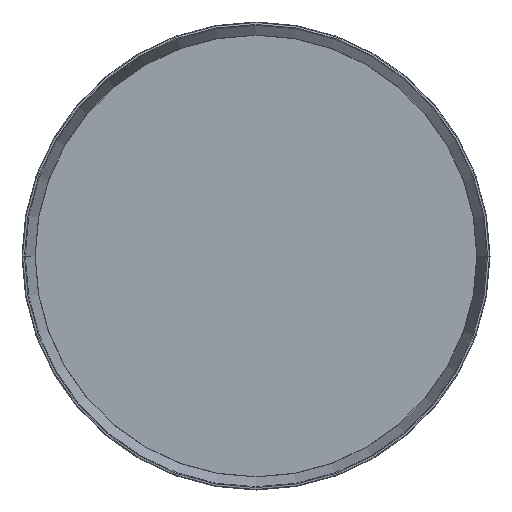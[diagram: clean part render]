
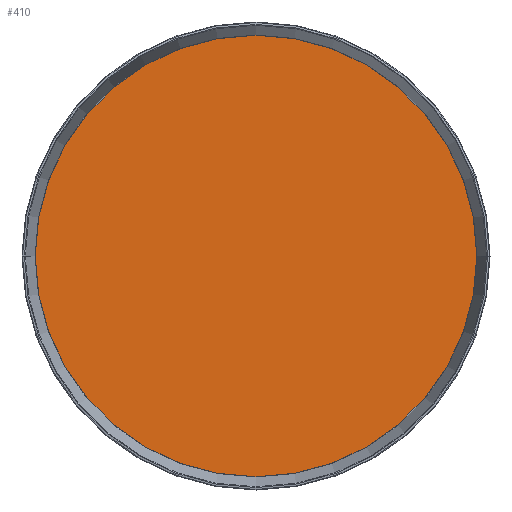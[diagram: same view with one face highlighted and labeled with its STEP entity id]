
A CAD part, front view. The second image highlights one B-rep face of the part: STEP entity #410.
In plain terms, the highlighted planar face has unit normal (0, -1, 0).
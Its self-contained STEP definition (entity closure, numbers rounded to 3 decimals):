
#6=CARTESIAN_POINT('',(0.,10.5,0.));
#7=DIRECTION('',(0.,-1.,0.));
#8=DIRECTION('',(-1.,0.,0.));
#9=AXIS2_PLACEMENT_3D('',#6,#7,#8);
#15=CARTESIAN_POINT('',(0.,10.5,0.));
#16=DIRECTION('',(0.,-1.,0.));
#17=DIRECTION('',(1.,0.,0.));
#18=AXIS2_PLACEMENT_3D('',#15,#16,#17);
#363=CARTESIAN_POINT('',(-86.325,10.5,0.));
#364=CARTESIAN_POINT('',(86.325,10.5,0.));
#365=VERTEX_POINT('',#363);
#366=VERTEX_POINT('',#364);
#399=CARTESIAN_POINT('',(0.,10.5,0.));
#400=DIRECTION('',(0.,1.,0.));
#401=DIRECTION('',(1.,0.,0.));
#402=AXIS2_PLACEMENT_3D('',#399,#400,#401);
#403=PLANE('',#402);
#405=ORIENTED_EDGE('',*,*,#404,.F.);
#407=ORIENTED_EDGE('',*,*,#406,.F.);
#408=EDGE_LOOP('',(#405,#407));
#409=FACE_OUTER_BOUND('',#408,.F.);
#410=ADVANCED_FACE('',(#409),#403,.F.);
#10=CIRCLE('',#9,86.325);
#19=CIRCLE('',#18,86.325);
#404=EDGE_CURVE('',#365,#366,#10,.T.);
#406=EDGE_CURVE('',#366,#365,#19,.T.);
